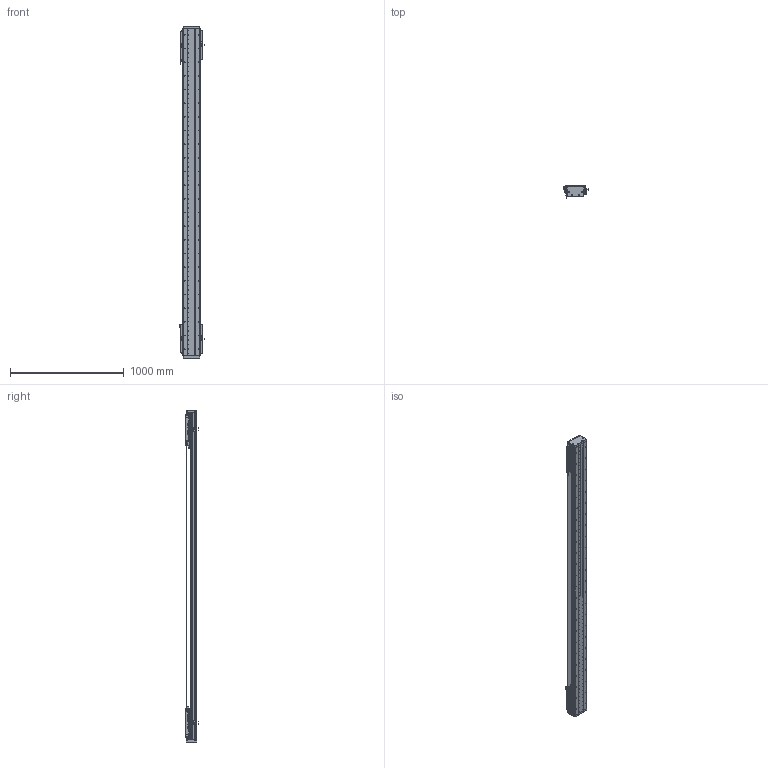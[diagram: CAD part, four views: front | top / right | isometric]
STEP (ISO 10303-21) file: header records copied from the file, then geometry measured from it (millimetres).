
FILE_DESCRIPTION (( 'STEP AP203' ), '1' );
FILE_NAME ('DA-C145-2-C3-T2300-C010-0.2 眻盄萇儂.STEP', '2025-08-13T10:27:05', ( '' ), ( '' ), 'SwSTEP 2.0', 'SolidWorks 2019', '' );
FILE_SCHEMA (( 'CONFIG_CONTROL_DESIGN' ));
Length unit declared in the file: millimetre
Products named in the file (38): IU-CU145-L 菁釱絳寢; 复件 DA95-HK-GT-00 滑块钢轨^CU145-W-00 一体化滑动台板; CU145-W 幗紩賑怢; 复件 DA145-C3-YB-A-00 压板A^CU145-W 滚珠滑台; CU145-W-00 珨极趙賑雄怢啣-1; 葩璃 鞠褒情蹟譫 M3^DA-C145-2-C3-T-C010-0.2; DKW168-HXJ-ZJ-00 笢潔滅袉砎蝶; 复件 DA145-C3-DK-00 挡块^CU145-W 滚珠滑台; 葩璃 CKMA01-W060-TRL^DA-C145-2-C3-T-C010-0.2; 葩璃 DMA-010-0.2 黍杅芛^DA-C145-2-C3-T-C010-0.2; 葩璃 DA145-C3-DP-B-00 菜えB^CU145-W 幗紩賑怢; 葩璃 CU145 詩湍郪璃^DA-C145-2-C3-T-C010-0.2; 复件 DA95-MFP-01 密封片^CU145-W 滚珠滑台; 66245-CU145-HT-W-00 賑雄怢啣(3D芞祧)(00); 葩璃 PM-T45^DA-C145-2-C3-T-C010-0.2; DA-C145-2-C3-T2300-C010-0.2 眻盄萇儂; 复件 内六角平端紧定螺钉 GB.T77-2000 M5×10^CU145-W 滚珠滑台; IU-CU145-L-00 菁釱(L2880); 葩璃 DA95-GT-T-00^IU-CU145-L 菁釱絳寢; 葩璃 CKM03-W060-C1C2-TP-0.2^DA-C145-2-C3-T-C010-0.2; 复件 半圆头内六角螺钉 M3×6^CU145-W 滚珠滑台; 复件 DA145-C3-YB-B-00 压板B^CU145-W 滚珠滑台; 复件 DA95-DB-00  挡板^CU145-W 滚珠滑台; 复件 DA146 钢带垫块^复件 CU145 钢带组件_DA-C145-2-C3-T-C010-0.2; CU145-W 幗紩賑怢-1; DKW-KGZ-ZJ-00 中间光电开关支架; 葩璃 DA95-HXJ-00 遣喳砎蝶^DA-C145-2-C3-T-C010-0.2; 葩璃 PM-Y65^DA-C145-2-C3-T-C010-0.2; 复件 纯铜油杯 6x6mm^CU145-W 滚珠滑台; 葩璃 DA145-C3-DP-A-00 菜えA^CU145-W 幗紩賑怢; 葩璃 XD-U-02L 棠掑喜^DA-C145-2-C3-T-C010-0.2; DKW-GYP-ZJ-00 笢潔嫖萇覜茼え; 复件 DA145-GYP-00 光电感应片^DA-C145-2-C3-T-C010-0.2; 复件 DA145 钢带^复件 CU145 钢带组件_DA-C145-2-C3-T-C010-0.2; TAY01-M8; 复件 DA145-DG 钢带端盖^复件 CU145 钢带组件_DA-C145-2-C3-T-C010-0.2; CU145-W-00 珨极趙賑雄怢啣; 复件 DA146 钢带拉块^复件 CU145 钢带组件_DA-C145-2-C3-T-C010-0.2
Assembly tree (180 placements, depth 4):
  DA-C145-2-C3-T2300-C010-0.2 眻盄萇儂
    IU-CU145-L 菁釱絳寢
      IU-CU145-L-00 菁釱(L2880)
      葩璃 DA95-GT-T-00^IU-CU145-L 菁釱絳寢  x4
    葩璃 CU145 詩湍郪璃^DA-C145-2-C3-T-C010-0.2
      复件 DA145-DG 钢带端盖^复件 CU145 钢带组件_DA-C145-2-C3-T-C010-0.2  x2
      复件 DA146 钢带拉块^复件 CU145 钢带组件_DA-C145-2-C3-T-C010-0.2  x2
      复件 DA146 钢带垫块^复件 CU145 钢带组件_DA-C145-2-C3-T-C010-0.2  x2
      复件 DA145 钢带^复件 CU145 钢带组件_DA-C145-2-C3-T-C010-0.2
    CU145-W 幗紩賑怢
      CU145-W-00 珨极趙賑雄怢啣
        66245-CU145-HT-W-00 賑雄怢啣(3D芞祧)(00)
        复件 DA95-HK-GT-00 滑块钢轨^CU145-W-00 一体化滑动台板  x8
      复件 DA95-MFP-01 密封片^CU145-W 滚珠滑台  x8
      复件 DA95-DB-00  挡板^CU145-W 滚珠滑台  x8
      复件 内六角平端紧定螺钉 GB.T77-2000 M5×10^CU145-W 滚珠滑台  x4
      复件 纯铜油杯 6x6mm^CU145-W 滚珠滑台  x4
      复件 半圆头内六角螺钉 M3×6^CU145-W 滚珠滑台  x16
      复件 DA145-C3-DK-00 挡块^CU145-W 滚珠滑台  x4
      葩璃 DA145-C3-DP-B-00 菜えB^CU145-W 幗紩賑怢  x2
      复件 DA145-C3-YB-B-00 压板B^CU145-W 滚珠滑台  x2
      葩璃 DA145-C3-DP-A-00 菜えA^CU145-W 幗紩賑怢  x3
      复件 DA145-C3-YB-A-00 压板A^CU145-W 滚珠滑台  x3
      TAY01-M8  x4
    CU145-W 幗紩賑怢-1
      CU145-W-00 珨极趙賑雄怢啣-1
        66245-CU145-HT-W-00 賑雄怢啣(3D芞祧)(00)
        复件 DA95-HK-GT-00 滑块钢轨^CU145-W-00 一体化滑动台板  x8
      复件 DA95-MFP-01 密封片^CU145-W 滚珠滑台  x8
      复件 DA95-DB-00  挡板^CU145-W 滚珠滑台  x8
      复件 内六角平端紧定螺钉 GB.T77-2000 M5×10^CU145-W 滚珠滑台  x4
      复件 纯铜油杯 6x6mm^CU145-W 滚珠滑台  x4
      复件 半圆头内六角螺钉 M3×6^CU145-W 滚珠滑台  x16
      复件 DA145-C3-DK-00 挡块^CU145-W 滚珠滑台  x4
      葩璃 DA145-C3-DP-B-00 菜えB^CU145-W 幗紩賑怢  x2
      复件 DA145-C3-YB-B-00 压板B^CU145-W 滚珠滑台  x2
      葩璃 DA145-C3-DP-A-00 菜えA^CU145-W 幗紩賑怢  x3
      复件 DA145-C3-YB-A-00 压板A^CU145-W 滚珠滑台  x3
      TAY01-M8  x4
    葩璃 CKMA01-W060-TRL^DA-C145-2-C3-T-C010-0.2
    葩璃 PM-T45^DA-C145-2-C3-T-C010-0.2  x4
    葩璃 XD-U-02L 棠掑喜^DA-C145-2-C3-T-C010-0.2
    葩璃 DA95-HXJ-00 遣喳砎蝶^DA-C145-2-C3-T-C010-0.2  x4
    葩璃 CKM03-W060-C1C2-TP-0.2^DA-C145-2-C3-T-C010-0.2  x2
    葩璃 DMA-010-0.2 黍杅芛^DA-C145-2-C3-T-C010-0.2  x2
    复件 DA145-GYP-00 光电感应片^DA-C145-2-C3-T-C010-0.2  x2
    DKW-GYP-ZJ-00 笢潔嫖萇覜茼え
    DKW-KGZ-ZJ-00 中间光电开关支架
    葩璃 PM-Y65^DA-C145-2-C3-T-C010-0.2
    葩璃 鞠褒情蹟譫 M3^DA-C145-2-C3-T-C010-0.2  x8
    DKW168-HXJ-ZJ-00 笢潔滅袉砎蝶
Bounding box: 213.7 x 108.45 x 2916 mm (x, y, z)
Volume: 15412120.7 mm3; surface area: 4926823 mm2
Topology: 175 solids, 239 shells, 7683 faces, 20967 edges, 12997 vertices
Faces by surface type: cylinder 3388, plane 2955, cone 1184, torus 140, sphere 8, bspline 8
Entity records: 147442 total; most frequent: CARTESIAN_POINT 43226, ORIENTED_EDGE 20620, DIRECTION 19535, EDGE_CURVE 10310, AXIS2_PLACEMENT_3D 7201, VERTEX_POINT 6696, LINE 5133, VECTOR 5133
